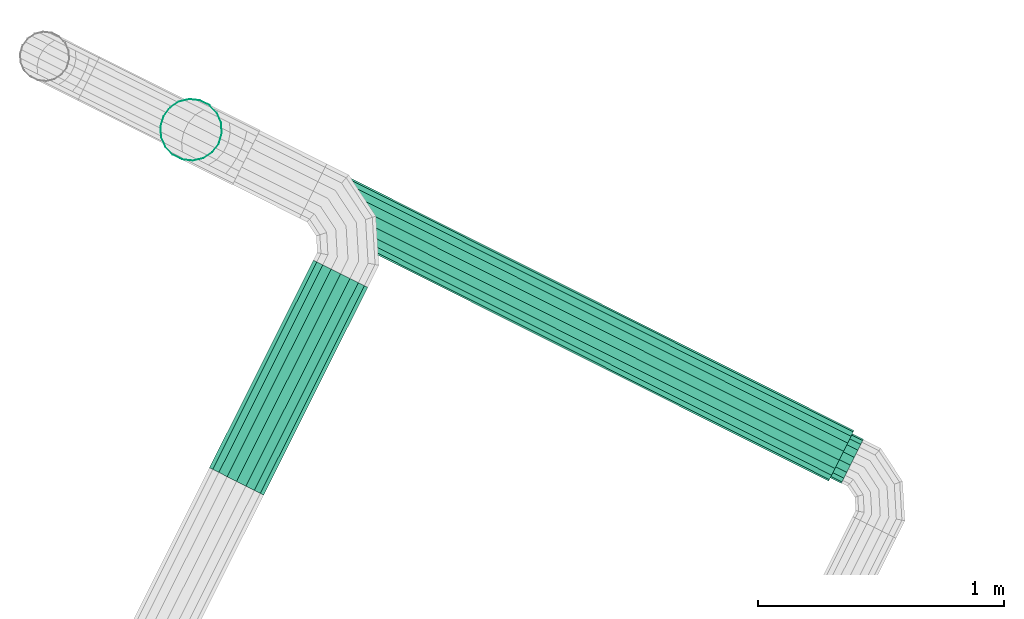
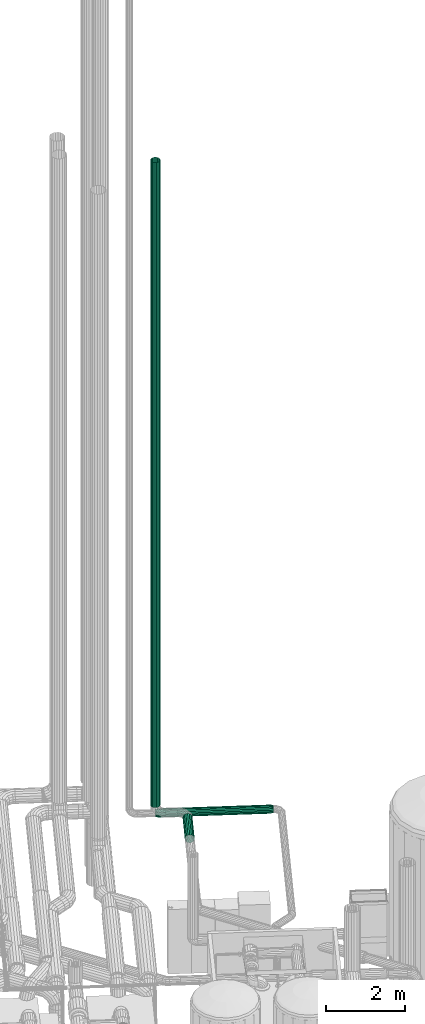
# One storey, part 28 of 206: 2 flow segments, 1 flow treatment device.
"""IFC2X3 building model written with IfcOpenShell, lengths in metres."""

from ifc_helpers import new_model, si_unit, derived_unit, direction, frame, origin, place, context, subcontext, project, spatial, face_set, surface_model, source, transform, mapped, material, type_object, type_shapes, element, save


model = new_model("IFC2X3")

# Units and contexts
model_context = context("Model", 3, precision=5.2338327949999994e-05, world=origin(), true_north=direction((0.0, 1.0)))
body_context = subcontext(model_context, "Body", "Model", "MODEL_VIEW")
ifc_project = project(units=[si_unit("LENGTHUNIT", "METRE"), si_unit("AREAUNIT", "SQUARE_METRE"), si_unit("VOLUMEUNIT", "CUBIC_METRE"), si_unit("MASSUNIT", "GRAM", prefix="KILO"), si_unit("PLANEANGLEUNIT", "RADIAN"), derived_unit("THERMALTRANSMITTANCEUNIT", [(si_unit("MASSUNIT", "GRAM", prefix="KILO"), 1), (si_unit("THERMODYNAMICTEMPERATUREUNIT", "KELVIN"), -1), (si_unit("TIMEUNIT", "SECOND"), -3)])], contexts=[model_context])

# Site, building, storey
site_placement = place(None, frame((0.0, 0.0, 0.0), z_axis=(0.0, 0.0, 1.0), x_axis=(0.8939966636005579, -0.4480736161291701, 0.0)))
site = spatial("IfcSite", under=ifc_project, at=site_placement, Name="Default", CompositionType="ELEMENT")
building_placement = place(site_placement, origin())
building = spatial("IfcBuilding", under=site, at=building_placement, CompositionType="ELEMENT")
storey_placement = place(building_placement, origin())
storey = spatial("IfcBuildingStorey", under=building, at=storey_placement, Name="Erdgeschoss", CompositionType="ELEMENT", Elevation=0.0)

# Flow segments
ifc_material_1 = material(Name="IfcSurfaceStyle #251447")
distribution_element_type_1 = type_object("IfcDistributionElementType", Name="Wickelfalzrohr 293628:Wickelfalzrohr 293628", material=ifc_material_1)
shared_shape_1 = source(origin(), body_context, "Body", "SurfaceModel", [
    surface_model("IfcFaceBasedSurfaceModel", [(27.809101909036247, 16.23711232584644, 2.4499999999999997), (27.81664033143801, 16.19435980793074, 2.4499999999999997), (27.81664033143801, 16.19435980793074, 22.45), (27.80910190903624, 16.23711232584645, 22.45), (27.838346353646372, 16.156763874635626, 2.4499999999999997), (27.83834635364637, 16.156763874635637, 22.45), (27.87160190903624, 16.12885915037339, 2.4499999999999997), (27.871601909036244, 16.128859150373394, 22.45), (27.91239588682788, 16.11401135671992, 2.4499999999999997), (27.912395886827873, 16.114011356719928, 22.45), (27.955807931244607, 16.114011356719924, 2.4499999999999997), (27.95580793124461, 16.11401135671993, 22.45), (27.996601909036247, 16.128859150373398, 2.4499999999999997), (27.996601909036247, 16.128859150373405, 22.45), (28.029857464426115, 16.156763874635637, 2.4499999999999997), (28.029857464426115, 16.156763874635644, 22.45), (28.051563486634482, 16.194359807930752, 2.4499999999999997), (28.051563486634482, 16.194359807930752, 22.45), (28.05910190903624, 16.23711232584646, 2.4499999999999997), (28.05910190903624, 16.237112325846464, 22.45), (28.051563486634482, 16.279864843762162, 2.4499999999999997), (28.051563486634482, 16.279864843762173, 22.45), (28.02985746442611, 16.31746077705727, 2.4499999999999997), (28.02985746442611, 16.317460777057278, 22.45), (27.996601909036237, 16.3453655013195, 2.4499999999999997), (27.996601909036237, 16.345365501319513, 22.45), (27.955807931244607, 16.360213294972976, 2.4499999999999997), (27.95580793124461, 16.360213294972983, 22.45), (27.912395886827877, 16.360213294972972, 2.4499999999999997), (27.912395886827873, 16.360213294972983, 22.45), (27.871601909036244, 16.345365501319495, 2.4499999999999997), (27.871601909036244, 16.345365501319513, 22.45), (27.83834635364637, 16.317460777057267, 2.4499999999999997), (27.83834635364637, 16.317460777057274, 22.45), (27.81664033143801, 16.279864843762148, 2.4499999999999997), (27.816640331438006, 16.279864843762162, 22.45)], [face_set([[[0, 1, 2, 3]], [[1, 4, 5, 2]], [[4, 6, 7, 5]], [[6, 8, 9, 7]], [[8, 10, 11, 9]], [[10, 12, 13, 11]], [[12, 14, 15, 13]], [[14, 16, 17, 15]], [[16, 18, 19, 17]], [[18, 20, 21, 19]], [[20, 22, 23, 21]], [[22, 24, 25, 23]], [[24, 26, 27, 25]], [[26, 28, 29, 27]], [[28, 30, 31, 29]], [[30, 32, 33, 31]], [[32, 34, 35, 33]], [[34, 0, 3, 35]]])]),
])
type_shapes(distribution_element_type_1, [shared_shape_1])
flow_segment_1_placement = place(storey_placement, origin())
element("IfcFlowSegment", 1, at=flow_segment_1_placement, inside=storey, type_object=distribution_element_type_1, material=ifc_material_1, Name="Wickelfalzrohr", ObjectType="Wickelfalzrohr", context=body_context, shape_type="MappedRepresentation", body=[
    mapped(shared_shape_1, transform((0.0, 0.0, 0.0), scale=1.0)),
])
distribution_element_type_2 = type_object("IfcDistributionElementType", Name="Wickelfalzrohr 293947:Wickelfalzrohr 293947", material=ifc_material_1)
shared_shape_2 = source(origin(), body_context, "Body", "SurfaceModel", [
    surface_model("IfcFaceBasedSurfaceModel", [(28.737720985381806, 15.044603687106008, 2.075000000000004), (28.6949684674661, 15.044603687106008, 2.082538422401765), (28.6949684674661, 15.987112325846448, 2.0825384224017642), (28.737720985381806, 15.987112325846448, 2.075000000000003), (28.657372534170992, 15.044603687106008, 2.1042444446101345), (28.657372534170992, 15.987112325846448, 2.1042444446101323), (28.629467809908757, 15.044603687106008, 2.1375000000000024), (28.629467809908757, 15.987112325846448, 2.1375), (28.614620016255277, 15.044603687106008, 2.178293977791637), (28.61462001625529, 15.987112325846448, 2.1782939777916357), (28.614620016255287, 15.044603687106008, 2.2217060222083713), (28.614620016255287, 15.987112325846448, 2.22170602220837), (28.629467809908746, 15.044603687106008, 2.2625000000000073), (28.629467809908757, 15.987112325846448, 2.262500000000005), (28.657372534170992, 15.044603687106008, 2.2957555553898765), (28.657372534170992, 15.987112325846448, 2.2957555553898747), (28.6949684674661, 15.044603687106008, 2.3174615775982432), (28.6949684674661, 15.987112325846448, 2.317461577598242), (28.737720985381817, 15.044603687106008, 2.325000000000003), (28.73772098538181, 15.987112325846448, 2.325000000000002), (28.780473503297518, 15.044603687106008, 2.3174615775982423), (28.78047350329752, 15.987112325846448, 2.3174615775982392), (28.81806943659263, 15.044603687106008, 2.295755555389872), (28.818069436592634, 15.987112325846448, 2.2957555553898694), (28.84597416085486, 15.044603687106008, 2.2625), (28.845974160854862, 15.987112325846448, 2.2624999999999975), (28.860821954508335, 15.044603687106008, 2.2217060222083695), (28.86082195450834, 15.987112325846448, 2.2217060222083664), (28.86082195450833, 15.044603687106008, 2.1782939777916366), (28.860821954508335, 15.987112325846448, 2.1782939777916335), (28.845974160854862, 15.044603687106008, 2.137500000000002), (28.845974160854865, 15.987112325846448, 2.1374999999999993), (28.818069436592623, 15.044603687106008, 2.10424444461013), (28.81806943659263, 15.987112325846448, 2.104244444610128), (28.780473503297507, 15.044603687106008, 2.0825384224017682), (28.780473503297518, 15.987112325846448, 2.0825384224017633)], [face_set([[[0, 1, 2, 3]], [[1, 4, 5, 2]], [[4, 6, 7, 5]], [[6, 8, 9, 7]], [[8, 10, 11, 9]], [[10, 12, 13, 11]], [[12, 14, 15, 13]], [[14, 16, 17, 15]], [[16, 18, 19, 17]], [[18, 20, 21, 19]], [[20, 22, 23, 21]], [[22, 24, 25, 23]], [[24, 26, 27, 25]], [[26, 28, 29, 27]], [[28, 30, 31, 29]], [[30, 32, 33, 31]], [[32, 34, 35, 33]], [[34, 0, 3, 35]]])]),
])
type_shapes(distribution_element_type_2, [shared_shape_2])
flow_segment_2_placement = place(storey_placement, origin())
element("IfcFlowSegment", 2, at=flow_segment_2_placement, inside=storey, type_object=distribution_element_type_2, material=ifc_material_1, Name="Wickelfalzrohr", ObjectType="Wickelfalzrohr", context=body_context, shape_type="MappedRepresentation", body=[
    mapped(shared_shape_2, transform((0.0, 0.0, 0.0), scale=1.0)),
])

# Flow treatment device
ifc_material_2 = material(Name="IfcSurfaceStyle #280217")
distribution_element_type_3 = type_object("IfcDistributionElementType", Name="Telefonieschalldämpfer 613631:Telefonieschalldämpfer 613631", material=ifc_material_2)
shared_shape_3 = source(origin(), body_context, "Body", "SurfaceModel", [
    surface_model("IfcFaceBasedSurfaceModel", [(27.93508789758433, 16.137112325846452, 2.1999999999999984), (27.93508789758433, 16.143143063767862, 2.165797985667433), (27.98508789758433, 16.143143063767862, 2.165797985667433), (27.98508789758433, 16.137112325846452, 2.200000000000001), (27.93508789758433, 16.160507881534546, 2.1357212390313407), (27.98508789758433, 16.160507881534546, 2.1357212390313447), (27.93508789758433, 16.187112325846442, 2.1133974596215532), (27.98508789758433, 16.187112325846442, 2.1133974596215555), (27.93508789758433, 16.219747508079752, 2.1015192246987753), (27.98508789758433, 16.219747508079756, 2.1015192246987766), (27.93508789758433, 16.25447714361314, 2.1015192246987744), (27.98508789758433, 16.254477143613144, 2.1015192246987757), (27.93508789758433, 16.287112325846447, 2.113397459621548), (27.98508789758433, 16.287112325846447, 2.113397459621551), (27.93508789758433, 16.313716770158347, 2.1357212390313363), (27.98508789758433, 16.31371677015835, 2.135721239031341), (27.93508789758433, 16.331081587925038, 2.1657979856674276), (27.98508789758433, 16.331081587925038, 2.165797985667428), (27.93508789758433, 16.33711232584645, 2.2000000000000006), (27.98508789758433, 16.33711232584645, 2.1999999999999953), (27.93508789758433, 16.33108158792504, 2.2342020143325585), (27.98508789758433, 16.33108158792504, 2.2342020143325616), (27.93508789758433, 16.313716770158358, 2.264278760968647), (27.98508789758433, 16.31371677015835, 2.2642787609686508), (27.93508789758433, 16.287112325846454, 2.286602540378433), (27.98508789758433, 16.287112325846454, 2.2866025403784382), (27.93508789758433, 16.254477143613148, 2.298480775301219), (27.98508789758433, 16.25447714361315, 2.2984807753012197), (27.93508789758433, 16.21974750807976, 2.29848077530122), (27.98508789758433, 16.219747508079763, 2.298480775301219), (27.93508789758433, 16.187112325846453, 2.286602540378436), (27.98508789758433, 16.187112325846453, 2.286602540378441), (27.93508789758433, 16.160507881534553, 2.2642787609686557), (27.98508789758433, 16.160507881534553, 2.2642787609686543), (27.93508789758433, 16.14314306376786, 2.234202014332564), (27.98508789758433, 16.14314306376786, 2.2342020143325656), (27.98508789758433, 16.12211232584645, 2.2000000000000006), (27.98508789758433, 16.129047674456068, 2.160667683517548), (30.885087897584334, 16.129047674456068, 2.160667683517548), (30.885087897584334, 16.12211232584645, 2.2000000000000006), (27.98508789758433, 16.149017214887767, 2.126079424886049), (30.885087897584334, 16.149017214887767, 2.126079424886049), (27.98508789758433, 16.179612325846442, 2.100407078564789), (30.885087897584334, 16.179612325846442, 2.100407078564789), (27.98508789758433, 16.21714278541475, 2.086747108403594), (30.885087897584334, 16.21714278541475, 2.086747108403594), (27.98508789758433, 16.257081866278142, 2.086747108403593), (30.885087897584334, 16.257081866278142, 2.086747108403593), (27.98508789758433, 16.294612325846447, 2.1004070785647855), (30.885087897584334, 16.294612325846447, 2.1004070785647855), (27.98508789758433, 16.32520743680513, 2.1260794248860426), (30.885087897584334, 16.32520743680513, 2.1260794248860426), (27.98508789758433, 16.34517697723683, 2.160667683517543), (30.885087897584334, 16.34517697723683, 2.160667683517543), (27.98508789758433, 16.352112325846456, 2.1999999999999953), (30.885087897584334, 16.352112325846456, 2.1999999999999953), (27.98508789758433, 16.34517697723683, 2.2393323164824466), (30.885087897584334, 16.34517697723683, 2.2393323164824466), (27.98508789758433, 16.325207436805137, 2.273920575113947), (30.885087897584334, 16.325207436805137, 2.273920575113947), (27.98508789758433, 16.29461232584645, 2.2995929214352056), (30.885087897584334, 16.29461232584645, 2.2995929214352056), (27.98508789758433, 16.257081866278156, 2.3132528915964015), (30.885087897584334, 16.257081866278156, 2.3132528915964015), (27.98508789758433, 16.217142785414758, 2.3132528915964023), (30.885087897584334, 16.217142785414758, 2.3132528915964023), (27.98508789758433, 16.179612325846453, 2.299592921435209), (30.885087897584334, 16.179612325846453, 2.299592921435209), (27.98508789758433, 16.149017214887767, 2.2739205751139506), (30.885087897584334, 16.149017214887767, 2.2739205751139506), (27.98508789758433, 16.12904767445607, 2.239332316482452), (30.885087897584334, 16.12904767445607, 2.239332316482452), (27.985087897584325, 16.237112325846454, 2.199999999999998), (30.885087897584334, 16.237112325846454, 2.199999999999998), (30.885087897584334, 16.137112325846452, 2.200000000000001), (30.885087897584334, 16.14314306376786, 2.1657979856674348), (30.935087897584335, 16.14314306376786, 2.165797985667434), (30.935087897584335, 16.137112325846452, 2.200000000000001), (30.885087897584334, 16.160507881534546, 2.1357212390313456), (30.935087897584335, 16.160507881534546, 2.1357212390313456), (30.885087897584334, 16.187112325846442, 2.1133974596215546), (30.935087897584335, 16.187112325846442, 2.1133974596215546), (30.885087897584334, 16.219747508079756, 2.101519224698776), (30.935087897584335, 16.219747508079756, 2.101519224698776), (30.885087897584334, 16.254477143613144, 2.101519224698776), (30.935087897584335, 16.254477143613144, 2.101519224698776), (30.885087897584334, 16.287112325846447, 2.113397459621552), (30.935087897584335, 16.287112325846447, 2.113397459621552), (30.885087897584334, 16.31371677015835, 2.1357212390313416), (30.935087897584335, 16.31371677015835, 2.1357212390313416), (30.885087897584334, 16.331081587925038, 2.165797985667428), (30.935087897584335, 16.331081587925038, 2.165797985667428), (30.885087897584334, 16.33711232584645, 2.1999999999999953), (30.935087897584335, 16.33711232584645, 2.1999999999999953), (30.885087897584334, 16.331081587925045, 2.234202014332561), (30.935087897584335, 16.331081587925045, 2.234202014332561), (30.885087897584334, 16.31371677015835, 2.264278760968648), (30.935087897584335, 16.31371677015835, 2.264278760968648), (30.885087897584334, 16.287112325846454, 2.28660254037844), (30.935087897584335, 16.287112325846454, 2.28660254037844), (30.885087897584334, 16.25447714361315, 2.298480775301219), (30.935087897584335, 16.25447714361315, 2.298480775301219), (30.885087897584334, 16.219747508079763, 2.298480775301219), (30.935087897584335, 16.219747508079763, 2.298480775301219), (30.885087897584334, 16.187112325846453, 2.2866025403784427), (30.935087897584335, 16.187112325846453, 2.2866025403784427), (30.885087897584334, 16.160507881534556, 2.2642787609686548), (30.935087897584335, 16.160507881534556, 2.2642787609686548), (30.885087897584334, 16.14314306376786, 2.2342020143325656), (30.935087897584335, 16.14314306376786, 2.2342020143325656)], [face_set([[[0, 1, 2, 3]], [[1, 4, 5, 2]], [[4, 6, 7, 5]], [[6, 8, 9, 7]], [[8, 10, 11, 9]], [[10, 12, 13, 11]], [[12, 14, 15, 13]], [[14, 16, 17, 15]], [[16, 18, 19, 17]], [[18, 20, 21, 19]], [[20, 22, 23, 21]], [[22, 24, 25, 23]], [[24, 26, 27, 25]], [[26, 28, 29, 27]], [[28, 30, 31, 29]], [[30, 32, 33, 31]], [[32, 34, 35, 33]], [[34, 0, 3, 35]], [[36, 37, 38, 39]], [[37, 40, 41, 38]], [[40, 42, 43, 41]], [[42, 44, 45, 43]], [[44, 46, 47, 45]], [[46, 48, 49, 47]], [[48, 50, 51, 49]], [[50, 52, 53, 51]], [[52, 54, 55, 53]], [[54, 56, 57, 55]], [[56, 58, 59, 57]], [[58, 60, 61, 59]], [[60, 62, 63, 61]], [[62, 64, 65, 63]], [[64, 66, 67, 65]], [[66, 68, 69, 67]], [[68, 70, 71, 69]], [[70, 36, 39, 71]], [[72, 37, 36]], [[72, 40, 37]], [[72, 42, 40]], [[72, 44, 42]], [[72, 46, 44]], [[72, 48, 46]], [[72, 50, 48]], [[72, 52, 50]], [[72, 54, 52]], [[72, 56, 54]], [[72, 58, 56]], [[72, 60, 58]], [[72, 62, 60]], [[72, 64, 62]], [[72, 66, 64]], [[72, 68, 66]], [[72, 70, 68]], [[72, 36, 70]], [[73, 71, 39]], [[73, 69, 71]], [[73, 67, 69]], [[73, 65, 67]], [[73, 63, 65]], [[73, 61, 63]], [[73, 59, 61]], [[73, 57, 59]], [[73, 55, 57]], [[73, 53, 55]], [[73, 51, 53]], [[73, 49, 51]], [[73, 47, 49]], [[73, 45, 47]], [[73, 43, 45]], [[73, 41, 43]], [[73, 38, 41]], [[73, 39, 38]], [[74, 75, 76, 77]], [[75, 78, 79, 76]], [[78, 80, 81, 79]], [[80, 82, 83, 81]], [[82, 84, 85, 83]], [[84, 86, 87, 85]], [[86, 88, 89, 87]], [[88, 90, 91, 89]], [[90, 92, 93, 91]], [[92, 94, 95, 93]], [[94, 96, 97, 95]], [[96, 98, 99, 97]], [[98, 100, 101, 99]], [[100, 102, 103, 101]], [[102, 104, 105, 103]], [[104, 106, 107, 105]], [[106, 108, 109, 107]], [[108, 74, 77, 109]]])]),
])
type_shapes(distribution_element_type_3, [shared_shape_3])
flow_treatment_device_placement = place(storey_placement, origin())
element("IfcFlowTreatmentDevice", 3, at=flow_treatment_device_placement, inside=storey, type_object=distribution_element_type_3, material=ifc_material_2, Name="Telefonieschalldämpfer", ObjectType="Telefonieschalldämpfer", context=body_context, shape_type="MappedRepresentation", body=[
    mapped(shared_shape_3, transform((0.0, 0.0, 0.0), scale=1.0)),
])

save(model, "model.ifc")
